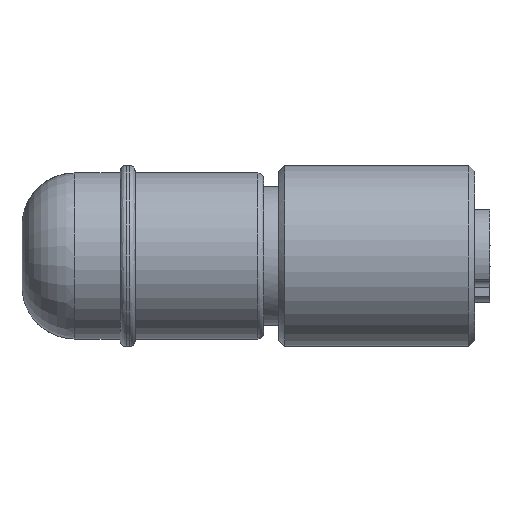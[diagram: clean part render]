
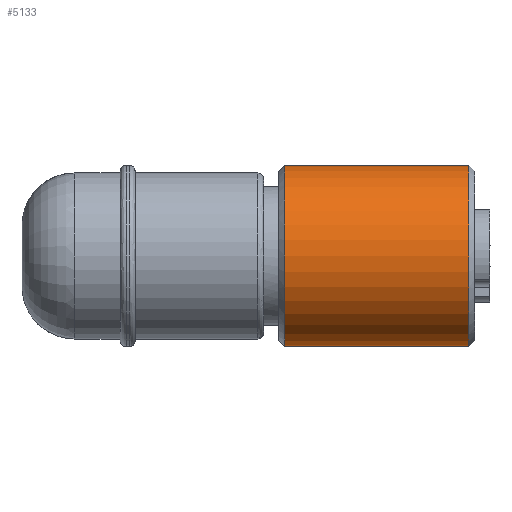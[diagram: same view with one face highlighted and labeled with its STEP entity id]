
A CAD part, front view. The second image highlights one B-rep face of the part: STEP entity #5133.
In plain terms, the highlighted cylindrical face has radius 3 mm (diameter 6 mm), a partial arc.
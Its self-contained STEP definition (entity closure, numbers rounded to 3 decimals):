
#19 = DIRECTION ( 'NONE',  ( 0., 0., -1. ) ) ;
#58 = CARTESIAN_POINT ( 'NONE',  ( 6.8, 0., 3. ) ) ;
#456 = CIRCLE ( 'NONE', #4294, 3. ) ;
#621 = VERTEX_POINT ( 'NONE', #1768 ) ;
#844 = VERTEX_POINT ( 'NONE', #58 ) ;
#1001 = EDGE_CURVE ( 'NONE', #5432, #844, #4514, .T. ) ;
#1150 = ORIENTED_EDGE ( 'NONE', *, *, #1306, .T. ) ;
#1306 = EDGE_CURVE ( 'NONE', #2014, #621, #2218, .T. ) ;
#1388 = CARTESIAN_POINT ( 'NONE',  ( 6.8, 0., 0. ) ) ;
#1407 = DIRECTION ( 'NONE',  ( 1., 0., 0. ) ) ;
#1409 = DIRECTION ( 'NONE',  ( -1., 0., 0. ) ) ;
#1768 = CARTESIAN_POINT ( 'NONE',  ( 6.8, 0., -3. ) ) ;
#1838 = DIRECTION ( 'NONE',  ( -1., 0., 0. ) ) ;
#1888 = DIRECTION ( 'NONE',  ( 0., 0., 1. ) ) ;
#2014 = VERTEX_POINT ( 'NONE', #3595 ) ;
#2084 = EDGE_LOOP ( 'NONE', ( #2129, #5617, #1150, #5618 ) ) ;
#2129 = ORIENTED_EDGE ( 'NONE', *, *, #1001, .F. ) ;
#2178 = VECTOR ( 'NONE', #2559, 1000. ) ;
#2186 = EDGE_CURVE ( 'NONE', #2014, #5432, #456, .T. ) ;
#2218 = LINE ( 'NONE', #2719, #3819 ) ;
#2559 = DIRECTION ( 'NONE',  ( 1., 0., 0. ) ) ;
#2719 = CARTESIAN_POINT ( 'NONE',  ( 3.75, 0., -3. ) ) ;
#2792 = CIRCLE ( 'NONE', #5901, 3. ) ;
#3064 = AXIS2_PLACEMENT_3D ( 'NONE', #3632, #4120, #19 ) ;
#3595 = CARTESIAN_POINT ( 'NONE',  ( 0.7, 0., -3. ) ) ;
#3632 = CARTESIAN_POINT ( 'NONE',  ( 3.75, 0., 0. ) ) ;
#3819 = VECTOR ( 'NONE', #1407, 1000. ) ;
#3965 = EDGE_CURVE ( 'NONE', #621, #844, #2792, .T. ) ;
#4120 = DIRECTION ( 'NONE',  ( 1., 0., 0. ) ) ;
#4181 = CARTESIAN_POINT ( 'NONE',  ( 0.7, 0., 0. ) ) ;
#4188 = CARTESIAN_POINT ( 'NONE',  ( 0.7, 0., 3. ) ) ;
#4294 = AXIS2_PLACEMENT_3D ( 'NONE', #4181, #1409, #1888 ) ;
#4514 = LINE ( 'NONE', #5839, #2178 ) ;
#4606 = CYLINDRICAL_SURFACE ( 'NONE', #3064, 3. ) ;
#5133 = ADVANCED_FACE ( 'NONE', ( #5947 ), #4606, .T. ) ;
#5432 = VERTEX_POINT ( 'NONE', #4188 ) ;
#5617 = ORIENTED_EDGE ( 'NONE', *, *, #2186, .F. ) ;
#5618 = ORIENTED_EDGE ( 'NONE', *, *, #3965, .T. ) ;
#5839 = CARTESIAN_POINT ( 'NONE',  ( 3.75, 0., 3. ) ) ;
#5872 = DIRECTION ( 'NONE',  ( 0., 0., -1. ) ) ;
#5901 = AXIS2_PLACEMENT_3D ( 'NONE', #1388, #1838, #5872 ) ;
#5947 = FACE_OUTER_BOUND ( 'NONE', #2084, .T. ) ;
